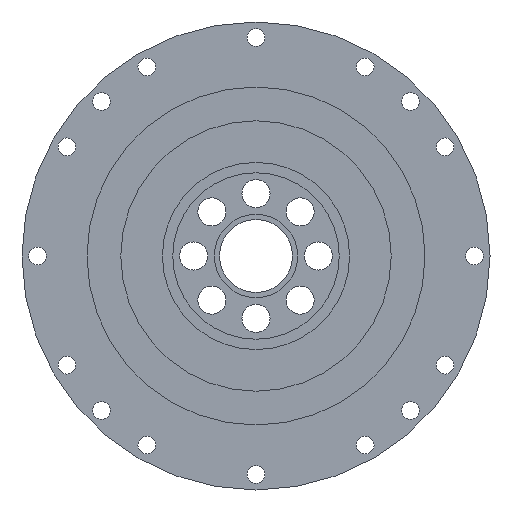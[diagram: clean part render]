
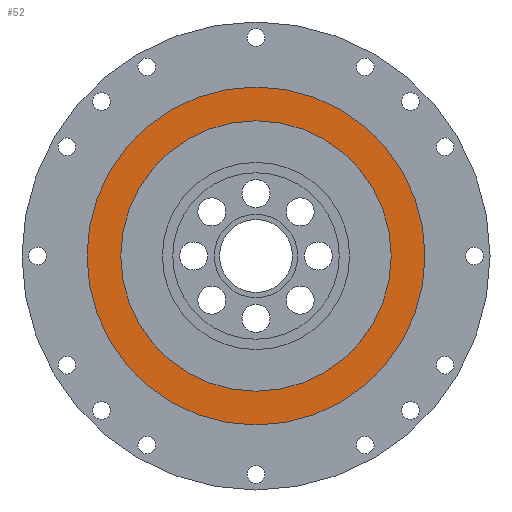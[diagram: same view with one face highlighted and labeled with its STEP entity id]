
A CAD part, left-side view. The second image highlights one B-rep face of the part: STEP entity #52.
In plain terms, the highlighted planar face has unit normal (-1, 0, 0).
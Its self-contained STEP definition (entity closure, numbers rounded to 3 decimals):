
#52 = ADVANCED_FACE ( 'NONE', ( #4515, #7571 ), #9199, .T. ) ;
#473 = AXIS2_PLACEMENT_3D ( 'NONE', #10460, #13386, #11765 ) ;
#897 = EDGE_LOOP ( 'NONE', ( #3513, #4065 ) ) ;
#1918 = VERTEX_POINT ( 'NONE', #17848 ) ;
#2289 = DIRECTION ( 'NONE',  ( 0., 0., 1. ) ) ;
#3174 = CARTESIAN_POINT ( 'NONE',  ( 1.35, 0., 0. ) ) ;
#3298 = EDGE_CURVE ( 'NONE', #8431, #18012, #14896, .T. ) ;
#3513 = ORIENTED_EDGE ( 'NONE', *, *, #3298, .T. ) ;
#3944 = DIRECTION ( 'NONE',  ( 0., 0., 1. ) ) ;
#4065 = ORIENTED_EDGE ( 'NONE', *, *, #12268, .T. ) ;
#4515 = FACE_OUTER_BOUND ( 'NONE', #897, .T. ) ;
#4784 = AXIS2_PLACEMENT_3D ( 'NONE', #17466, #11128, #9614 ) ;
#5069 = EDGE_LOOP ( 'NONE', ( #6756, #17155 ) ) ;
#5342 = AXIS2_PLACEMENT_3D ( 'NONE', #6949, #5346, #2289 ) ;
#5346 = DIRECTION ( 'NONE',  ( -1., 0., 0. ) ) ;
#5744 = AXIS2_PLACEMENT_3D ( 'NONE', #10046, #17790, #3944 ) ;
#6447 = EDGE_CURVE ( 'NONE', #15415, #1918, #16734, .T. ) ;
#6756 = ORIENTED_EDGE ( 'NONE', *, *, #6988, .F. ) ;
#6949 = CARTESIAN_POINT ( 'NONE',  ( 1.35, 0., 0. ) ) ;
#6988 = EDGE_CURVE ( 'NONE', #1918, #15415, #9281, .T. ) ;
#7571 = FACE_BOUND ( 'NONE', #5069, .T. ) ;
#8431 = VERTEX_POINT ( 'NONE', #19491 ) ;
#8568 = CARTESIAN_POINT ( 'NONE',  ( 1.35, 0., 32.5 ) ) ;
#8884 = CARTESIAN_POINT ( 'NONE',  ( 1.35, 0., 26. ) ) ;
#9199 = PLANE ( 'NONE',  #19300 ) ;
#9281 = CIRCLE ( 'NONE', #473, 26. ) ;
#9390 = DIRECTION ( 'NONE',  ( -1., 0., 0. ) ) ;
#9614 = DIRECTION ( 'NONE',  ( 0., 0., 1. ) ) ;
#10046 = CARTESIAN_POINT ( 'NONE',  ( 1.35, 0., 0. ) ) ;
#10460 = CARTESIAN_POINT ( 'NONE',  ( 1.35, 0., 0. ) ) ;
#11128 = DIRECTION ( 'NONE',  ( -1., 0., 0. ) ) ;
#11765 = DIRECTION ( 'NONE',  ( 0., 0., 1. ) ) ;
#12268 = EDGE_CURVE ( 'NONE', #18012, #8431, #19682, .T. ) ;
#13386 = DIRECTION ( 'NONE',  ( -1., 0., 0. ) ) ;
#14896 = CIRCLE ( 'NONE', #4784, 32.5 ) ;
#15415 = VERTEX_POINT ( 'NONE', #8884 ) ;
#16734 = CIRCLE ( 'NONE', #5342, 26. ) ;
#17155 = ORIENTED_EDGE ( 'NONE', *, *, #6447, .F. ) ;
#17466 = CARTESIAN_POINT ( 'NONE',  ( 1.35, 0., 0. ) ) ;
#17790 = DIRECTION ( 'NONE',  ( -1., 0., 0. ) ) ;
#17848 = CARTESIAN_POINT ( 'NONE',  ( 1.35, 0., -26. ) ) ;
#18012 = VERTEX_POINT ( 'NONE', #8568 ) ;
#18730 = DIRECTION ( 'NONE',  ( 0., 0., 1. ) ) ;
#19300 = AXIS2_PLACEMENT_3D ( 'NONE', #3174, #9390, #18730 ) ;
#19491 = CARTESIAN_POINT ( 'NONE',  ( 1.35, 0., -32.5 ) ) ;
#19682 = CIRCLE ( 'NONE', #5744, 32.5 ) ;
